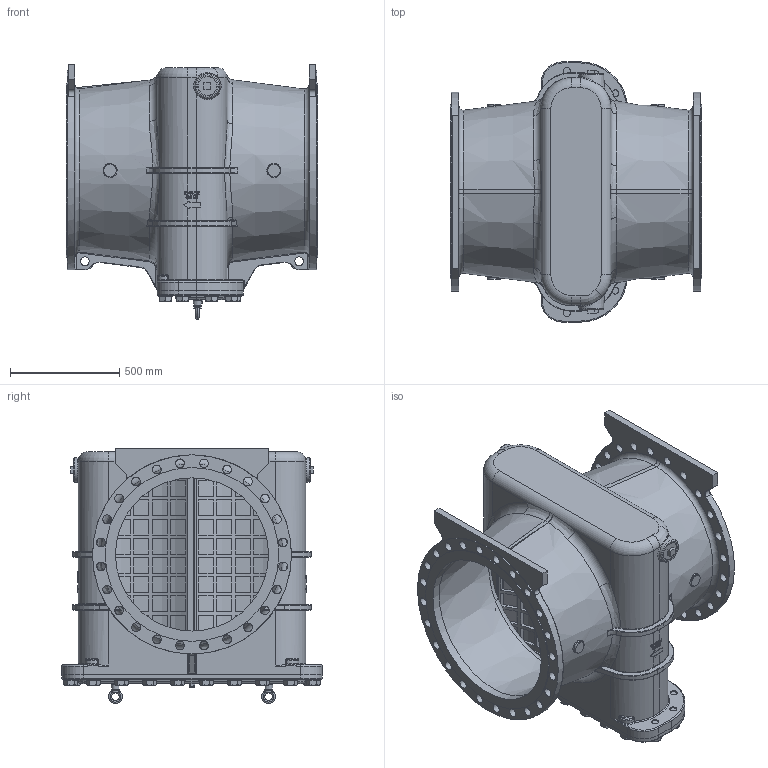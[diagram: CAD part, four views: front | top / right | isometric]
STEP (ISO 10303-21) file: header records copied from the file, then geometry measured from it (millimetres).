
FILE_DESCRIPTION(/* description */ (''),/* implementation_level */ '2;1');
FILE_NAME(/* name */ 'G:\Doc_Liberes\SymbolesCAD\Modeles_3D\FichierSTP\Aqua\Aqua90501\FAB70016.stp',/* time_stamp */ '2019-09-03T15:07:27+02:00',/* author */ ('leonardo'),/* organization */ (''),/* preprocessor_version */ 'ST-DEVELOPER v18',/* originating_system */ 'Autodesk Inventor 2020',/* authorisation */ '');
FILE_SCHEMA (('AUTOMOTIVE_DESIGN { 1 0 10303 214 3 1 1 }'));
Products named in the file (14): FAB70016; 205243-01B; 58900-46; 73240-25; 58651; 58651prot; 58651tam; 57576-02; 57576-07; 57507; ISO 4144 Bouchons mâles P1 3; ISO 7089 - 36 - 140 HV; ISO 4018 - M36 x 65; DIN 580 - M16 x 1.5
Assembly tree (55 placements, depth 3):
  FAB70016
    205243-01B
    58900-46
    73240-25  x2
    58651  x2
      58651prot
      58651tam
    57576-02
      57576-07
      57507
    ISO 4144 Bouchons mâles P1 3  x2
    ISO 4018 - M36 x 65  x20
    ISO 7089 - 36 - 140 HV  x20
    DIN 580 - M16 x 1.5  x2
Bounding box: 1150 x 1190 x 1167 mm (x, y, z)
Volume: 130538579 mm3; surface area: 15000715.8 mm2
Topology: 54 solids, 54 shells, 3291 faces, 8456 edges, 5236 vertices
Faces by surface type: plane 1431, cylinder 772, bspline 432, torus 373, cone 193, sphere 90
Full cylindrical faces by diameter (mm): 1.6 x1, 2.3 x1, 6.5 x1, 6.92 x1, 8 x1, 13.84 x2, 14 x1, 15 x2, 16 x2, 18.63 x1, 20.955 x1, 31.67 x20, 36 x40, 37 x20, 40 x50, 66 x20, 81 x2, 84.93 x2, 700 x2
Entity records: 94739 total; most frequent: CARTESIAN_POINT 32616, ORIENTED_EDGE 13038, DIRECTION 12507, EDGE_CURVE 6519, AXIS2_PLACEMENT_3D 4778, VERTEX_POINT 4069, LINE 2951, VECTOR 2951
